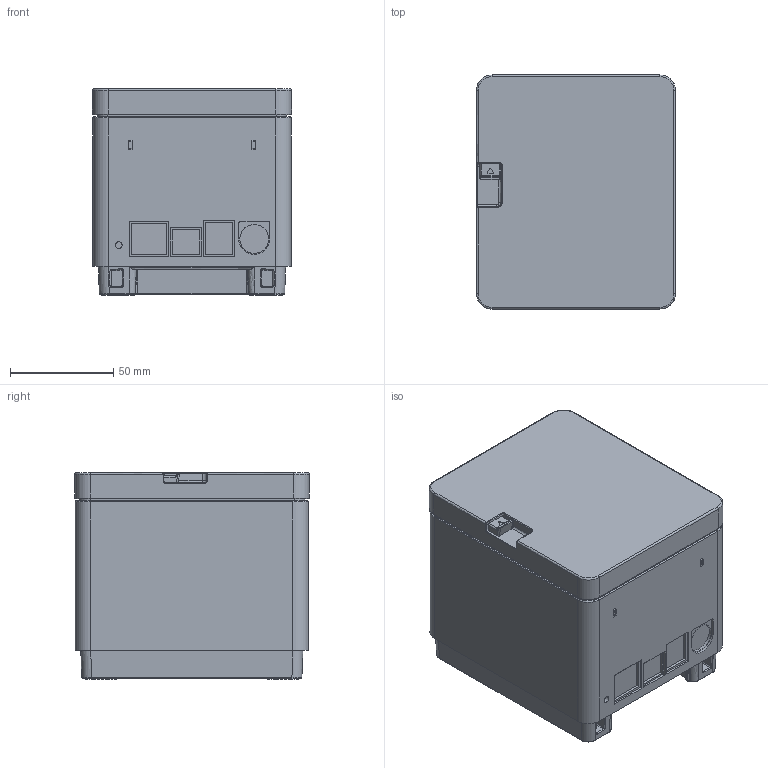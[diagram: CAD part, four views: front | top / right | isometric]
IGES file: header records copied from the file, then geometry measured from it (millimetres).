
Start section: Elysium IGES Interface
Global section: file name: 99HX:\Develop\Personal\Umezawa\20190125_公開用外観3Dデータ\提出用データ_IGES形式\mC-Print2_3D_data.igs; native system: PTC Creo Elements/Direct Modeling 19.0E  27-Jun-2016; preprocessor: Creo Element/Direct IGES_3D V2.2; author: Unknown; organization: Unknown; date: 20190131.113354; units: millimetre
Bounding box: 96.2 x 113.2 x 100 mm (x, y, z)
Volume: 1013827.4 mm3; surface area: 76811.5 mm2
Topology: 1 solids, 1 shells, 550 faces, 1375 edges, 865 vertices
Faces by surface type: bspline 550
